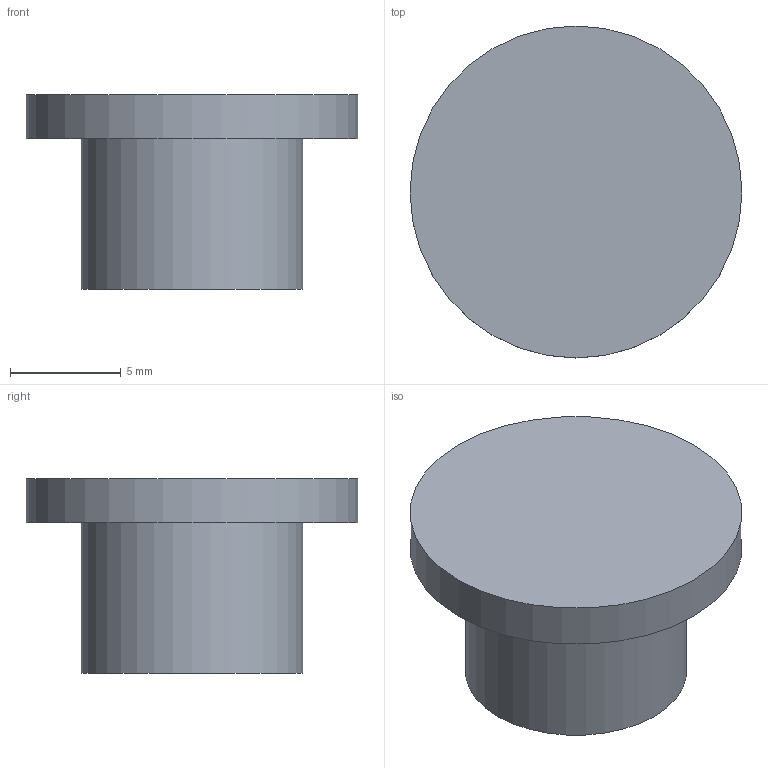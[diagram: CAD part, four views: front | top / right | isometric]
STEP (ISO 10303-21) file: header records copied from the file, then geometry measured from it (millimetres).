
FILE_DESCRIPTION(('Open CASCADE Model'),'2;1');
FILE_NAME('Open CASCADE Shape Model','2026-10-18T19:44:56',('Author'),( 'Open CASCADE'),'Open CASCADE STEP processor 7.9','Open CASCADE 7.9' ,'Unknown');
FILE_SCHEMA(('AUTOMOTIVE_DESIGN { 1 0 10303 214 1 1 1 1 }'));
Length unit declared in the file: millimetre
Products named in the file (1): Open CASCADE STEP translator 7.9 8
Bounding box: 15 x 15 x 8.8 mm (x, y, z)
Volume: 851.2 mm3; surface area: 711.4 mm2
Topology: 1 solids, 1 shells, 7 faces, 9 edges, 6 vertices
Faces by surface type: plane 4, cylinder 3
Full cylindrical faces by diameter (mm): 2.9 x1, 10 x1, 15 x1
Entity records: 279 total; most frequent: DIRECTION 48, CARTESIAN_POINT 47, ORIENTED_EDGE 18, PCURVE 18, DEFINITIONAL_REPRESENTATION 18, LINE 15, VECTOR 15, AXIS2_PLACEMENT_3D 14
